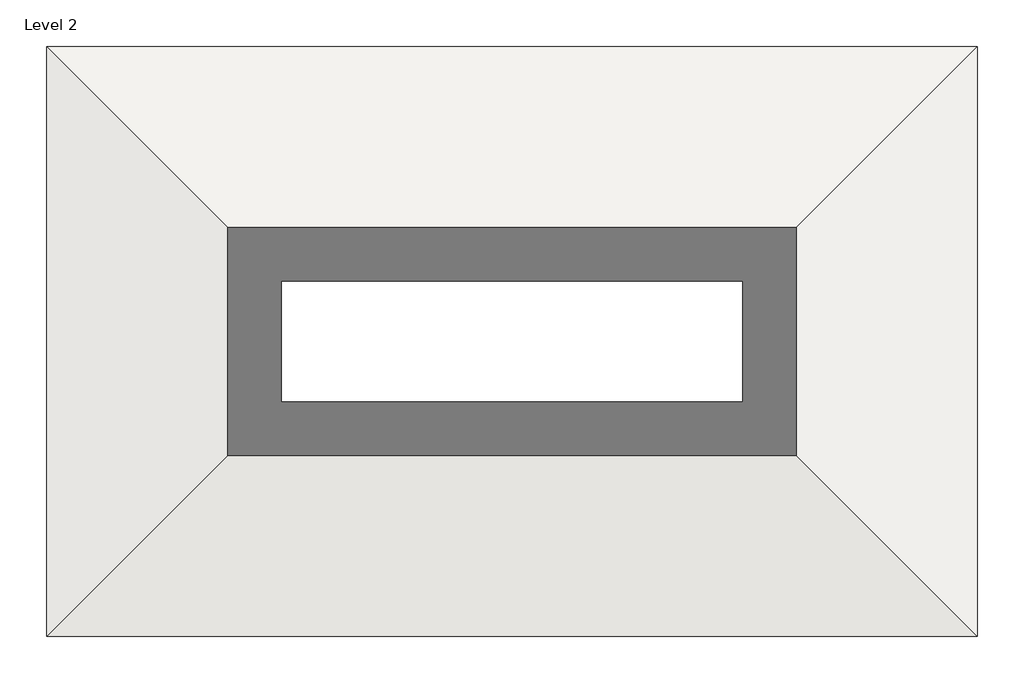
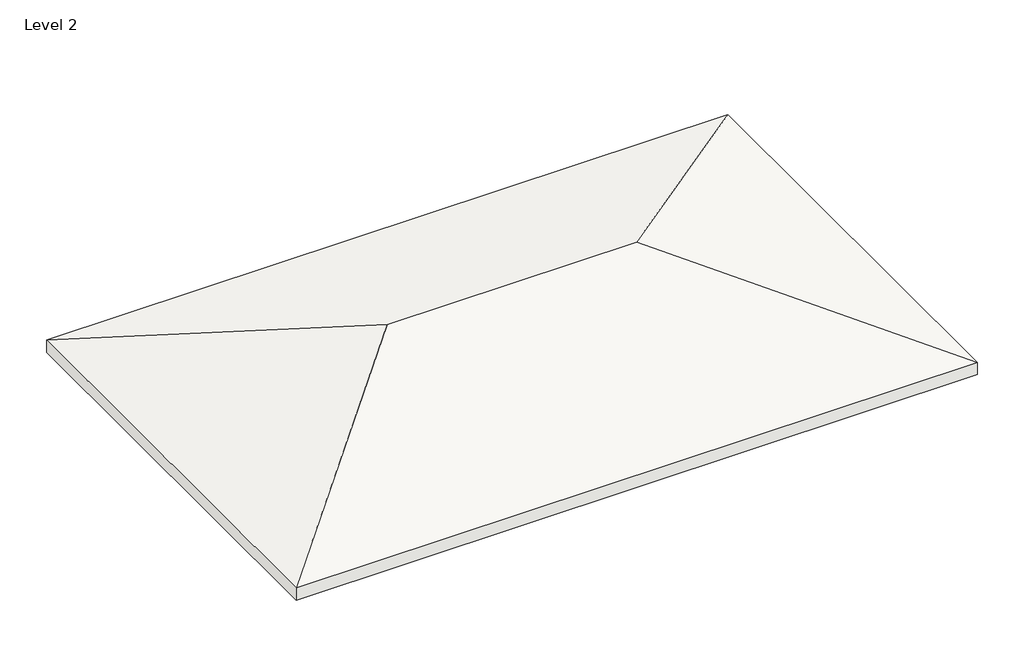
# One storey: 1 roof.
"""IFC4 building model written with IfcOpenShell, lengths in millimetres."""

import ifcopenshell
import ifcopenshell.guid

model = None  # the IFC model being written
_history = None  # IfcOwnerHistory: only IFC2X3 demands one
_inside = {}  # id of a spatial element -> (the spatial element, [elements in it])
_under = {}  # id of a project, library or spatial element -> (it, [spatial elements below it])
_declared = {}  # id of a project -> (the project, [libraries it declares])
_typed = {}  # id of a type object -> (the type object, [elements of that type])
_made_of = {}  # id of a material, layer set ... -> (it, [elements and type objects made of it])


def new_model(schema):
    """Start an empty IFC model of exactly this schema.

    Asked for "IFC4X3", IfcOpenShell would pick the latest addendum, in which some entities
    have other attributes; the version numbers below select the first issue.
    IFC2X3 requires an IfcOwnerHistory on every rooted entity: one is made here for all.
    """
    global model, _history
    if schema == "IFC4X3":
        model = ifcopenshell.file(schema_version=(4, 3, 0, 0))
    else:
        model = ifcopenshell.file(schema=schema)
    _inside.clear()
    _under.clear()
    _declared.clear()
    _typed.clear()
    _made_of.clear()
    _history = None
    if model.schema == "IFC2X3":
        org = make("IfcOrganization", Name="unknown")
        user = make(
            "IfcPersonAndOrganization",
            ThePerson=make("IfcPerson", FamilyName="unknown"),
            TheOrganization=org,
        )
        app = make(
            "IfcApplication",
            ApplicationDeveloper=org,
            Version="unknown",
            ApplicationFullName="unknown",
            ApplicationIdentifier="unknown",
        )
        _history = make(
            "IfcOwnerHistory",
            OwningUser=user,
            OwningApplication=app,
            ChangeAction="ADDED",
            CreationDate=0,
        )
    return model


def make(cls, **values):
    """One entity of the class cls with the attributes given. An attribute that is None is left unset."""
    return model.create_entity(
        cls, **{name: value for name, value in values.items() if value is not None}
    )


def rooted(cls, **values):
    """An entity with a GlobalId (a new one), such as an element, a storey or a relation."""
    return make(cls, GlobalId=ifcopenshell.guid.new(), OwnerHistory=_history, **values)


def si_unit(unit_type, name, prefix=None):
    """IfcSIUnit, for example si_unit("LENGTHUNIT", "METRE", prefix="MILLI")."""
    return make("IfcSIUnit", UnitType=unit_type, Prefix=prefix, Name=name)


def assignment(units):
    """IfcUnitAssignment: the units of a project."""
    return None if units is None else make("IfcUnitAssignment", Units=units)


def point(xyz):
    """IfcCartesianPoint."""
    return None if xyz is None else make("IfcCartesianPoint", Coordinates=xyz)


def direction(xyz):
    """IfcDirection."""
    return None if xyz is None else make("IfcDirection", DirectionRatios=xyz)


def frame(location, z_axis=None, x_axis=None):
    """IfcAxis2Placement3D, a coordinate frame: its origin and axes. An axis left out is left unset."""
    return make(
        "IfcAxis2Placement3D",
        Location=point(location),
        Axis=direction(z_axis),
        RefDirection=direction(x_axis),
    )


def origin():
    """The frame at (0, 0, 0) with its axes left unset."""
    return frame((0.0, 0.0, 0.0))


def place(relative_to, where):
    """IfcLocalPlacement: puts the frame where relative to a parent placement (None: the world)."""
    return make(
        "IfcLocalPlacement", PlacementRelTo=relative_to, RelativePlacement=where
    )


def context(
    kind, dimensions, precision=None, world=None, true_north=None, identifier=None
):
    """IfcGeometricRepresentationContext, for example the 3D "Model" context."""
    return make(
        "IfcGeometricRepresentationContext",
        ContextIdentifier=identifier,
        ContextType=kind,
        CoordinateSpaceDimension=dimensions,
        Precision=precision,
        WorldCoordinateSystem=world,
        TrueNorth=true_north,
    )


def project(units=None, contexts=None):
    """IfcProject with its units and contexts."""
    return rooted(
        "IfcProject",
        Name="project",
        RepresentationContexts=contexts,
        UnitsInContext=assignment(units),
    )


def spatial(cls, under=None, at=None, **own):
    """A site, building, storey or space (cls), placed at a placement, below another one or the project."""
    s = rooted(cls, ObjectPlacement=at, **own)
    if under is not None:
        _under.setdefault(under.id(), (under, []))[1].append(s)
    return s


def faces_of(points, faces, orient=None, outer=None):
    """IfcFace entities. A face is a list of loops; a loop is a list of indices into points, from 0.

    orient and outer hold one flag for each loop. By default every Orientation is true, the
    first loop of a face is its IfcFaceOuterBound and the others are IfcFaceBound.
    """
    made = []
    for i, loops in enumerate(faces):
        bounds = []
        for j, loop in enumerate(loops):
            is_outer = j == 0 if outer is None else outer[i][j]
            bounds.append(
                make(
                    "IfcFaceOuterBound" if is_outer else "IfcFaceBound",
                    Bound=make("IfcPolyLoop", Polygon=[points[k] for k in loop]),
                    Orientation=True if orient is None else orient[i][j],
                )
            )
        made.append(make("IfcFace", Bounds=bounds))
    return made


def faceted_brep(points, faces, orient=None, outer=None, voids=None):
    """IfcFacetedBrep: a solid bounded by flat faces; with voids (closed shells), ...WithVoids."""
    shared = [point(p) for p in points]
    hull = make("IfcClosedShell", CfsFaces=faces_of(shared, faces, orient, outer))
    if voids is None:
        return make("IfcFacetedBrep", Outer=hull)
    return make(
        "IfcFacetedBrepWithVoids",
        Outer=hull,
        Voids=[
            make(cls, CfsFaces=faces_of(shared, fs, o, b)) for cls, fs, o, b in voids
        ],
    )


def shape(context_of_items, identifier, shape_type, items):
    """IfcShapeRepresentation: the items that make up one representation, for example the "Body"."""
    return make(
        "IfcShapeRepresentation",
        ContextOfItems=context_of_items,
        RepresentationIdentifier=identifier,
        RepresentationType=shape_type,
        Items=items,
    )


def made_of(thing, what):
    """Note that an element or type object is made of a material, layer set ...; save() writes the relation."""
    if what is not None:
        _made_of.setdefault(what.id(), (what, []))[1].append(thing)
    return thing


def element(
    cls,
    number,
    at=None,
    inside=None,
    cuts=None,
    type_object=None,
    material=None,
    context=None,
    identifier="Body",
    shape_type=None,
    held_by="IfcProductDefinitionShape",
    body=None,
    shapes=None,
    **own,
):
    """One element of the class cls, such as IfcWall. Its Tag is "e" and its number.

    at: its placement. inside: the storey or other place that contains it. cuts: it is an
    opening in that element (IfcRelVoidsElement). A single representation is given by context,
    identifier, shape_type and body (its items); several are given by shapes. held_by: the class
    of the entity that holds the representations. save() writes the other relations.
    """
    e = rooted(cls, Tag="e%d" % number, ObjectPlacement=at, **own)
    if body is not None:
        shapes = [shape(context, identifier, shape_type, body)]
    if shapes is not None:
        e.Representation = make(held_by, Representations=shapes)
    if inside is not None:
        _inside.setdefault(inside.id(), (inside, []))[1].append(e)
    if cuts is not None:
        rooted(
            "IfcRelVoidsElement", RelatingBuildingElement=cuts, RelatedOpeningElement=e
        )
    if type_object is not None:
        _typed.setdefault(type_object.id(), (type_object, []))[1].append(e)
    return made_of(e, material)


def aggregate(whole, parts):
    """IfcRelAggregates: a whole, such as a stair, and the parts it consists of."""
    return rooted("IfcRelAggregates", RelatingObject=whole, RelatedObjects=parts)


def save(model, path):
    """Write the relations noted so far, then the file.

    IfcRelAggregates (storeys below a building ...), IfcRelContainedInSpatialStructure (elements
    in a storey), IfcRelDefinesByType, IfcRelAssociatesMaterial and IfcRelDeclares: one each for
    every whole, place, type object, material and project.
    """
    for whole, parts in _under.values():
        aggregate(whole, parts)
    for where, things in _inside.values():
        rooted(
            "IfcRelContainedInSpatialStructure",
            RelatedElements=things,
            RelatingStructure=where,
        )
    for kind, things in _typed.values():
        rooted("IfcRelDefinesByType", RelatedObjects=things, RelatingType=kind)
    for what, things in _made_of.values():
        rooted("IfcRelAssociatesMaterial", RelatedObjects=things, RelatingMaterial=what)
    for by, libraries in _declared.values():
        rooted("IfcRelDeclares", RelatingContext=by, RelatedDefinitions=libraries)
    model.write(path)


model = new_model("IFC4")

# Units and contexts
model_context = context("Model", 3, world=origin())
ifc_project = project(units=[si_unit("LENGTHUNIT", "METRE", prefix="MILLI")], contexts=[model_context])

# Site, building, storey
site = spatial("IfcSite", under=ifc_project)
building = spatial("IfcBuilding", under=site)
storey = spatial("IfcBuildingStorey", under=building, Name="Level 2", Elevation=3048.0)

# Roof
placement = place(None, origin())
element("IfcRoof", 1, ObjectType="Generic - 12\"", at=placement, inside=storey, context=model_context, shape_type="Brep", body=[
    faceted_brep([(2928.66091, 4741.7412302, 4605.8666667), (8211.86091, 10024.9412302, 2844.8), (8211.86091, -541.4587698, 2844.8), (-8450.53909, 10024.9412302, 2844.8), (-3167.33909, 4741.7412302, 4605.8666667), (-8450.53909, -541.4587698, 2844.8), (8211.86091, 10024.9412302, 3166.0874103), (2928.66091, 4741.7412302, 4927.1540769), (8211.86091, -541.4587698, 3166.0874103), (-8450.53909, 10024.9412302, 3166.0874103), (-8450.53909, -541.4587698, 3166.0874103), (-3167.33909, 4741.7412302, 4927.1540769)], [[[0, 1, 2]], [[3, 4, 5]], [[1, 0, 4, 3]], [[5, 4, 0, 2]], [[6, 7, 8]], [[9, 10, 11]], [[6, 9, 11, 7]], [[10, 8, 7, 11]], [[3, 9, 6, 1]], [[5, 10, 9, 3]], [[2, 8, 10, 5]], [[1, 6, 8, 2]]]),
])

save(model, "model.ifc")
